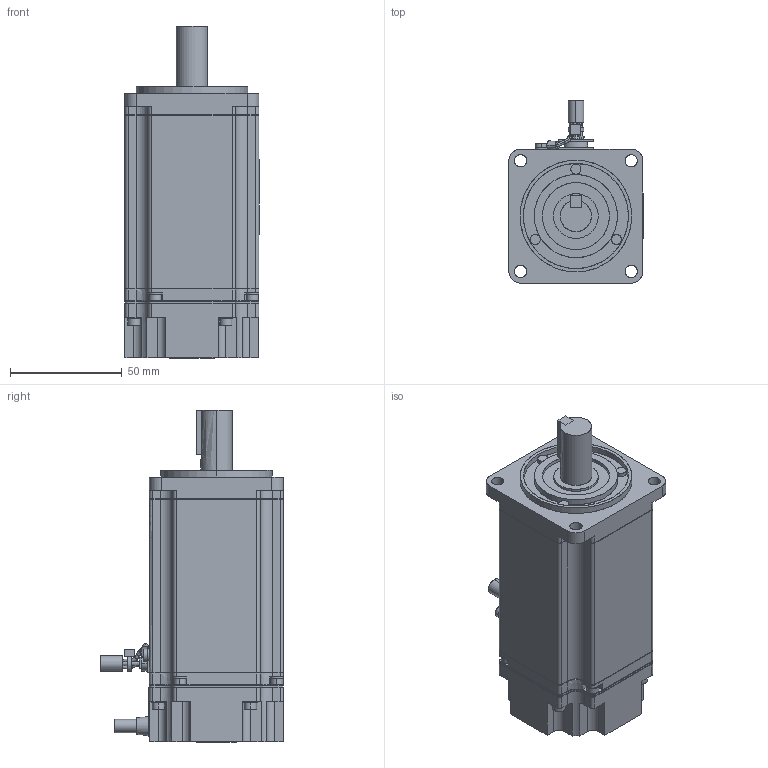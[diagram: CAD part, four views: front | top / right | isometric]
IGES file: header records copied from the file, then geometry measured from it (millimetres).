
Start section: SolidWorks IGES file using analytic representation for surfaces
Global section: file name: D:\YASKAWA\sjme_04amb41.IGS; native system: SolidWorks 2006 by SolidWorks Corporation; preprocessor: SolidWorks 2006 by SolidWorks Corporation; author: yamanouchi; date: 111109.083816; units: millimetre
Bounding box: 60.1 x 81.9 x 148.6 mm (x, y, z)
Surface area: 39594.3 mm2 (no closed solid volume)
Topology: 0 solids, 0 shells, 476 faces, 7282 edges, 7282 vertices
Faces by surface type: bspline 280, revolution 196
